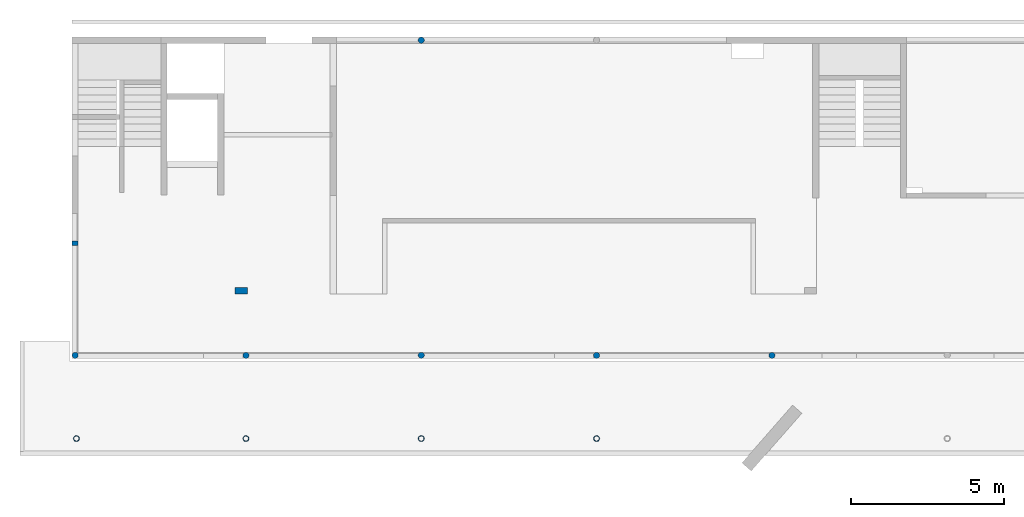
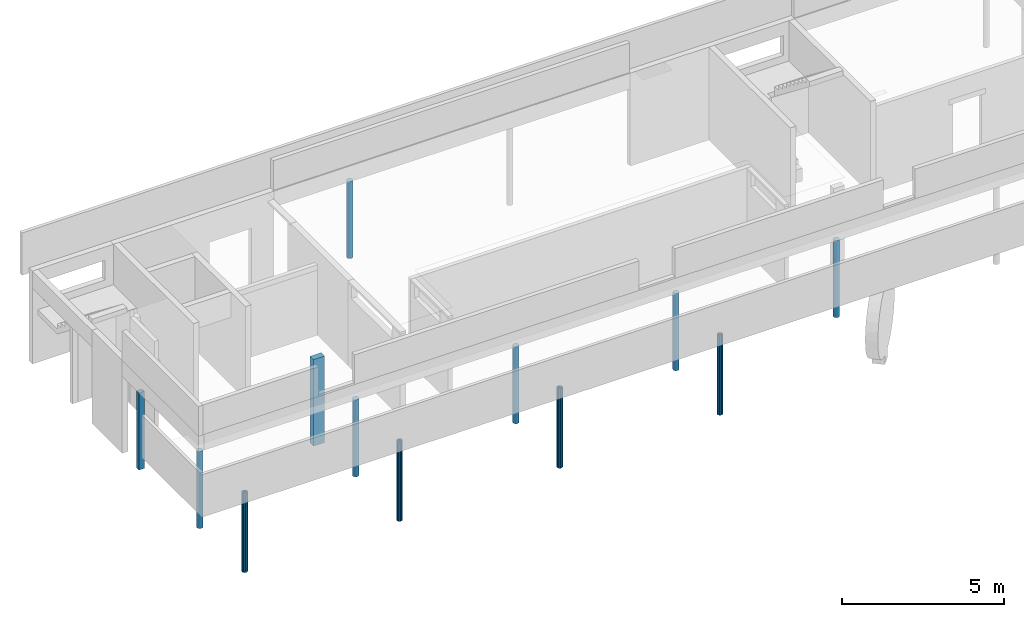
# One storey, part 1 of 5: 12 columns.
"""IFC4 building model written with IfcOpenShell, lengths in metres."""

from ifc_helpers import new_model, entity, si_unit, converted_unit, derived_unit, frame, frame_2d, origin, origin_with_axes, place, context, subcontext, project, spatial, polyline, rectangle, outline, extrude, material, element, save


model = new_model("IFC4")

# Units and contexts
model_context = context("Model", 3, precision=1e-05, world=origin())
plan_context = context("Plan", 2, precision=1e-05, world=origin())
body_context = subcontext(model_context, "Body", "Model", "MODEL_VIEW")
ifc_project = project(units=[si_unit("LENGTHUNIT", "METRE"), si_unit("AREAUNIT", "SQUARE_METRE"), si_unit("VOLUMEUNIT", "CUBIC_METRE"), si_unit("MASSUNIT", "GRAM", prefix="KILO"), converted_unit("PLANEANGLEUNIT", "DEGREE", entity("IfcPlaneAngleMeasure", 0.0174532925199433), si_unit("PLANEANGLEUNIT", "RADIAN"), dimensions=[0, 0, 0, 0, 0, 0, 0]), derived_unit("THERMALTRANSMITTANCEUNIT", [(si_unit("POWERUNIT", "WATT"), 1), (si_unit("THERMODYNAMICTEMPERATUREUNIT", "KELVIN"), -1), (si_unit("LENGTHUNIT", "METRE"), -2)]), derived_unit("VOLUMETRICFLOWRATEUNIT", [(si_unit("LENGTHUNIT", "METRE"), 3), (converted_unit("TIMEUNIT", "hour", entity("IfcTimeMeasure", 3600.0), si_unit("TIMEUNIT", "SECOND"), dimensions=[0, 0, 1, 0, 0, 0, 0]), -1), (si_unit("LENGTHUNIT", "METRE"), -1)])], contexts=[model_context, plan_context])

# Site, building, storey
site_placement = place(None, origin())
site = spatial("IfcSite", under=ifc_project, at=site_placement, Name="Site", CompositionType="ELEMENT")
building_placement = place(site_placement, origin())
building = spatial("IfcBuilding", under=site, at=building_placement, Name="Admin", CompositionType="ELEMENT")
storey_placement = place(building_placement, frame((0.0, 0.0, -0.26)))
storey = spatial("IfcBuildingStorey", under=building, at=storey_placement, Name="00-Rez", CompositionType="ELEMENT", Elevation=-0.26)

# Columns
ifc_material_1 = material(Name="S235")
column_1_placement = place(storey_placement, frame((41.0129501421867, 9.16002760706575, -0.04)))
element("IfcColumn", 1, at=column_1_placement, inside=storey, material=ifc_material_1, Name="CBM.0.04", PredefinedType="COLUMN", context=body_context, shape_type="SweptSolid", body=[
    extrude(outline(polyline([(0.193699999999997, 0.0944217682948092), (0.18410883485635, 0.136443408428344), (0.157234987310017, 0.170142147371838), (0.118401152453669, 0.188843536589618), (0.075298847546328, 0.188843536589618), (0.0364650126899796, 0.170142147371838), (0.00959116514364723, 0.136443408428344), (0.0, 0.0944217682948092), (0.00959116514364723, 0.0524001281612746), (0.0364650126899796, 0.0187013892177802), (0.075298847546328, 0.0), (0.118401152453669, 0.0), (0.157234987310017, 0.0187013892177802), (0.18410883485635, 0.0524001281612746), (0.193699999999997, 0.0944217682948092)]), holes=[polyline([(0.183699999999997, 0.0944217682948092), (0.17206430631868, 0.05099676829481), (0.140275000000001, 0.0192074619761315), (0.0968499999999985, 0.00757176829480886), (0.0534249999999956, 0.0192074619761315), (0.0216356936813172, 0.05099676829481), (0.01, 0.0944217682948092), (0.0216356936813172, 0.137846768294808), (0.0534249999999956, 0.169636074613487), (0.0968499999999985, 0.18127176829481), (0.140275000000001, 0.169636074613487), (0.17206430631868, 0.137846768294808), (0.183699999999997, 0.0944217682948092)])]), origin_with_axes(), (0.0, 0.0, 1.0), 3.0),
])
ifc_material_2 = material(Name="S235")
column_2_placement = place(storey_placement, frame((24.0429501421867, 9.16002760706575, -0.04)))
element("IfcColumn", 2, at=column_2_placement, inside=storey, material=ifc_material_2, Name="CBM.0.01", PredefinedType="COLUMN", context=body_context, shape_type="SweptSolid", body=[
    extrude(outline(polyline([(0.193699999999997, 0.0944217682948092), (0.184108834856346, 0.136443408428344), (0.157234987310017, 0.170142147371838), (0.118401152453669, 0.188843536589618), (0.075298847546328, 0.188843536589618), (0.0364650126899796, 0.170142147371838), (0.00959116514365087, 0.136443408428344), (0.0, 0.0944217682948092), (0.00959116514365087, 0.0524001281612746), (0.0364650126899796, 0.0187013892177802), (0.075298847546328, 0.0), (0.118401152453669, 0.0), (0.157234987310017, 0.0187013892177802), (0.184108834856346, 0.0524001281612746), (0.193699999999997, 0.0944217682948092)]), holes=[polyline([(0.183699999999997, 0.0944217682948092), (0.172064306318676, 0.05099676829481), (0.140274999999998, 0.0192074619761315), (0.0968499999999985, 0.00757176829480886), (0.0534249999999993, 0.0192074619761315), (0.0216356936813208, 0.05099676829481), (0.01, 0.0944217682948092), (0.0216356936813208, 0.137846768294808), (0.0534249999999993, 0.169636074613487), (0.0968499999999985, 0.18127176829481), (0.140274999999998, 0.169636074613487), (0.172064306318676, 0.137846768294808), (0.183699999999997, 0.0944217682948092)])]), origin_with_axes(), (0.0, 0.0, 1.0), 3.0),
])
ifc_material_3 = material(Name="S235")
column_3_placement = place(storey_placement, frame((35.2929501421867, 9.16002760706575, -0.04)))
element("IfcColumn", 3, at=column_3_placement, inside=storey, material=ifc_material_3, Name="CBM.0.03", PredefinedType="COLUMN", context=body_context, shape_type="SweptSolid", body=[
    extrude(outline(polyline([(0.193699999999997, 0.0944217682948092), (0.18410883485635, 0.136443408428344), (0.157234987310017, 0.170142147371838), (0.118401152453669, 0.188843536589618), (0.075298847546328, 0.188843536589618), (0.0364650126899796, 0.170142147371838), (0.00959116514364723, 0.136443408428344), (0.0, 0.0944217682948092), (0.00959116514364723, 0.0524001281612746), (0.0364650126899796, 0.0187013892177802), (0.075298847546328, 0.0), (0.118401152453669, 0.0), (0.157234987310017, 0.0187013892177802), (0.18410883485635, 0.0524001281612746), (0.193699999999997, 0.0944217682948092)]), holes=[polyline([(0.183699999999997, 0.0944217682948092), (0.17206430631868, 0.05099676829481), (0.140275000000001, 0.0192074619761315), (0.0968499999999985, 0.00757176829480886), (0.0534249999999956, 0.0192074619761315), (0.0216356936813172, 0.05099676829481), (0.01, 0.0944217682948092), (0.0216356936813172, 0.137846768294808), (0.0534249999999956, 0.169636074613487), (0.0968499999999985, 0.18127176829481), (0.140275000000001, 0.169636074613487), (0.17206430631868, 0.137846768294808), (0.183699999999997, 0.0944217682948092)])]), origin_with_axes(), (0.0, 0.0, 1.0), 3.0),
])
ifc_material_4 = material(Name="S235")
column_4_placement = place(storey_placement, frame((29.5729496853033, 9.16002762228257, -0.04)))
element("IfcColumn", 4, at=column_4_placement, inside=storey, material=ifc_material_4, Name="CBM.0.02", PredefinedType="COLUMN", context=body_context, shape_type="SweptSolid", body=[
    extrude(outline(polyline([(0.193699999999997, 0.0944217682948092), (0.184108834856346, 0.136443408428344), (0.157234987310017, 0.170142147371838), (0.118401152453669, 0.188843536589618), (0.075298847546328, 0.188843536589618), (0.0364650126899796, 0.170142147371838), (0.00959116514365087, 0.136443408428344), (0.0, 0.0944217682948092), (0.00959116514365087, 0.0524001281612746), (0.0364650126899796, 0.0187013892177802), (0.075298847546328, 0.0), (0.118401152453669, 0.0), (0.157234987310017, 0.0187013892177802), (0.184108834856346, 0.0524001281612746), (0.193699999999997, 0.0944217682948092)]), holes=[polyline([(0.172064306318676, 0.137846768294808), (0.183699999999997, 0.0944217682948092), (0.172064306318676, 0.05099676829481), (0.140274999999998, 0.0192074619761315), (0.0968499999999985, 0.00757176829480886), (0.0534249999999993, 0.0192074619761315), (0.0216356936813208, 0.05099676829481), (0.01, 0.0944217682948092), (0.0216356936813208, 0.137846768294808), (0.0534249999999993, 0.169636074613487), (0.0968499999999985, 0.18127176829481), (0.140274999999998, 0.169636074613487), (0.172064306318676, 0.137846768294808)])]), origin_with_axes(), (0.0, 0.0, 1.0), 3.0),
])
ifc_material_5 = material(Name="C30/37")
column_5_placement = place(storey_placement, frame((41.0102124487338, 11.8698621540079, 0.0)))
element("IfcColumn", 5, at=column_5_placement, inside=storey, material=ifc_material_5, Name="CBA.0.04", PredefinedType="COLUMN", context=body_context, shape_type="SweptSolid", body=[
    extrude(outline(polyline([(0.115360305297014, 0.199174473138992), (0.0838141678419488, 0.199174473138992), (0.0538120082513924, 0.189426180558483), (0.0282906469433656, 0.170883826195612), (0.00974829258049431, 0.145362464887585), (0.0, 0.115360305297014), (0.0, 0.0838141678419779), (0.00974829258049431, 0.053812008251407), (0.0282906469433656, 0.0282906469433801), (0.0538120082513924, 0.00974829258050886), (0.0838141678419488, 0.0), (0.115360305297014, 0.0), (0.14536246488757, 0.00974829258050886), (0.170883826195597, 0.0282906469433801), (0.189426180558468, 0.053812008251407), (0.199174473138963, 0.0838141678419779), (0.199174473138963, 0.115360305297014), (0.189426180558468, 0.145362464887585), (0.170883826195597, 0.170883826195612), (0.14536246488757, 0.189426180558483), (0.115360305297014, 0.199174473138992)])), origin_with_axes(), (0.0, 0.0, 1.0), 2.91),
])
ifc_material_6 = material(Name="C30/37")
column_6_placement = place(storey_placement, frame((46.7302124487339, 11.8698621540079, 0.0)))
element("IfcColumn", 6, at=column_6_placement, inside=storey, material=ifc_material_6, Name="CBA.0.05", PredefinedType="COLUMN", context=body_context, shape_type="SweptSolid", body=[
    extrude(outline(polyline([(0.115360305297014, 0.199174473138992), (0.0838141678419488, 0.199174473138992), (0.0538120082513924, 0.189426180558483), (0.0282906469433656, 0.170883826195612), (0.00974829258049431, 0.145362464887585), (0.0, 0.115360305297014), (0.0, 0.0838141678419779), (0.00974829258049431, 0.053812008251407), (0.0282906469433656, 0.0282906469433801), (0.0538120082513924, 0.00974829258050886), (0.0838141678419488, 0.0), (0.115360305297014, 0.0), (0.14536246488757, 0.00974829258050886), (0.170883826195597, 0.0282906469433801), (0.189426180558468, 0.053812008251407), (0.199174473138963, 0.0838141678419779), (0.199174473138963, 0.115360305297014), (0.189426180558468, 0.145362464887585), (0.170883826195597, 0.170883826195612), (0.14536246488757, 0.189426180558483), (0.115360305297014, 0.199174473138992)])), origin_with_axes(), (0.0, 0.0, 1.0), 2.91),
])
ifc_material_7 = material(Name="C30/37")
column_7_placement = place(storey_placement, frame((35.2902124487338, 11.8698621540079, 0.0)))
element("IfcColumn", 7, at=column_7_placement, inside=storey, material=ifc_material_7, Name="CBA.0.03", PredefinedType="COLUMN", context=body_context, shape_type="SweptSolid", body=[
    extrude(outline(polyline([(0.115360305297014, 0.199174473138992), (0.0838141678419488, 0.199174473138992), (0.0538120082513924, 0.189426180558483), (0.0282906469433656, 0.170883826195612), (0.00974829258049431, 0.145362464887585), (0.0, 0.115360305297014), (0.0, 0.0838141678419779), (0.00974829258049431, 0.053812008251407), (0.0282906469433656, 0.0282906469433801), (0.0538120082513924, 0.00974829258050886), (0.0838141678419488, 0.0), (0.115360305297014, 0.0), (0.14536246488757, 0.00974829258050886), (0.170883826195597, 0.0282906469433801), (0.189426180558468, 0.053812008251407), (0.199174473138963, 0.0838141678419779), (0.199174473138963, 0.115360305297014), (0.189426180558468, 0.145362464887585), (0.170883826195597, 0.170883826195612), (0.14536246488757, 0.189426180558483), (0.115360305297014, 0.199174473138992)])), origin_with_axes(), (0.0, 0.0, 1.0), 2.91),
])
ifc_material_8 = material(Name="C30/37")
column_8_placement = place(storey_placement, frame((29.5702124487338, 11.8698621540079, 0.0)))
element("IfcColumn", 8, at=column_8_placement, inside=storey, material=ifc_material_8, Name="CBA.0.02", PredefinedType="COLUMN", context=body_context, shape_type="SweptSolid", body=[
    extrude(outline(polyline([(0.115360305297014, 0.199174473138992), (0.0838141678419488, 0.199174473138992), (0.0538120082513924, 0.189426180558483), (0.0282906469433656, 0.170883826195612), (0.00974829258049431, 0.145362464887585), (0.0, 0.115360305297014), (0.0, 0.0838141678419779), (0.00974829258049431, 0.053812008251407), (0.0282906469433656, 0.0282906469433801), (0.0538120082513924, 0.00974829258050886), (0.0838141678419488, 0.0), (0.115360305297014, 0.0), (0.14536246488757, 0.00974829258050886), (0.170883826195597, 0.0282906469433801), (0.189426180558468, 0.053812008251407), (0.199174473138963, 0.0838141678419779), (0.199174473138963, 0.115360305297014), (0.189426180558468, 0.145362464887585), (0.170883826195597, 0.170883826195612), (0.14536246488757, 0.189426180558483), (0.115360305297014, 0.199174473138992)])), origin_with_axes(), (0.0, 0.0, 1.0), 2.91),
])
ifc_material_9 = material(Name="C30/37")
column_9_placement = place(storey_placement, frame((24.0002129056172, 11.8698621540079, 0.0)))
element("IfcColumn", 9, at=column_9_placement, inside=storey, material=ifc_material_9, Name="CBA.0.01", PredefinedType="COLUMN", context=body_context, shape_type="SweptSolid", body=[
    extrude(outline(polyline([(0.115360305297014, 0.199174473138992), (0.0838141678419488, 0.199174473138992), (0.0538120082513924, 0.189426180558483), (0.0282906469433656, 0.170883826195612), (0.00974829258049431, 0.145362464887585), (0.0, 0.115360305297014), (0.0, 0.0838141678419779), (0.00974829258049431, 0.053812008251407), (0.0282906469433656, 0.0282906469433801), (0.0538120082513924, 0.00974829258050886), (0.0838141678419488, 0.0), (0.115360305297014, 0.0), (0.14536246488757, 0.00974829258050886), (0.170883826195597, 0.0282906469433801), (0.189426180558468, 0.053812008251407), (0.199174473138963, 0.0838141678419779), (0.199174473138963, 0.115360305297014), (0.189426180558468, 0.145362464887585), (0.170883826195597, 0.170883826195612), (0.14536246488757, 0.189426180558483), (0.115360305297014, 0.199174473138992)])), origin_with_axes(), (0.0, 0.0, 1.0), 2.91),
])
ifc_material_10 = material(Name="C30/37")
column_10_placement = place(storey_placement, frame((35.2902129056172, 22.1502749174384, 0.0)))
element("IfcColumn", 10, at=column_10_placement, inside=storey, material=ifc_material_10, Name="CBA.0.13", PredefinedType="COLUMN", context=body_context, shape_type="SweptSolid", body=[
    extrude(outline(polyline([(0.115360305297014, 0.199174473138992), (0.0838141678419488, 0.199174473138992), (0.0538120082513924, 0.189426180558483), (0.0282906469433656, 0.170883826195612), (0.00974829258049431, 0.145362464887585), (0.0, 0.115360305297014), (0.0, 0.0838141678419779), (0.00974829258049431, 0.053812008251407), (0.0282906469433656, 0.0282906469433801), (0.0538120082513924, 0.00974829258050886), (0.0838141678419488, 0.0), (0.115360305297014, 0.0), (0.14536246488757, 0.00974829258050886), (0.170883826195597, 0.0282906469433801), (0.189426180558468, 0.053812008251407), (0.199174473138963, 0.0838141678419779), (0.199174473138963, 0.115360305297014), (0.189426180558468, 0.145362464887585), (0.170883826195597, 0.170883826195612), (0.14536246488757, 0.189426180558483), (0.115360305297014, 0.199174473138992)])), origin_with_axes(), (0.0, 0.0, 1.0), 2.91),
])
ifc_material_11 = material(Name="C30/37")
column_11_placement = place(storey_placement, frame((29.3198196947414, 13.9694511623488, 0.0)))
element("IfcColumn", 11, at=column_11_placement, inside=storey, material=ifc_material_11, Name="CBA.0.15", PredefinedType="COLUMN", context=body_context, shape_type="SweptSolid", body=[
    extrude(rectangle(XDim=0.4, YDim=0.22, at=frame_2d((0.2, 0.11), x_axis=(1.0, 0.0))), origin_with_axes(), (0.0, 0.0, 1.0), 3.26),
])
ifc_material_12 = material(Name="C30/37")
column_12_placement = place(storey_placement, frame((23.9998001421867, 15.5494493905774, 0.0)))
element("IfcColumn", 12, at=column_12_placement, inside=storey, material=ifc_material_12, Name="CBA.0.14", PredefinedType="COLUMN", context=body_context, shape_type="SweptSolid", body=[
    extrude(rectangle(XDim=0.200000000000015, YDim=0.15, at=frame_2d((0.100000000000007, 0.075), x_axis=(1.0, 0.0))), origin_with_axes(), (0.0, 0.0, 1.0), 2.91),
])

save(model, "model.ifc")
